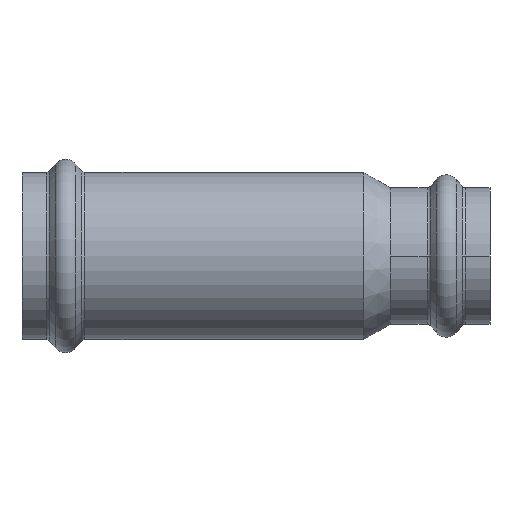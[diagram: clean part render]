
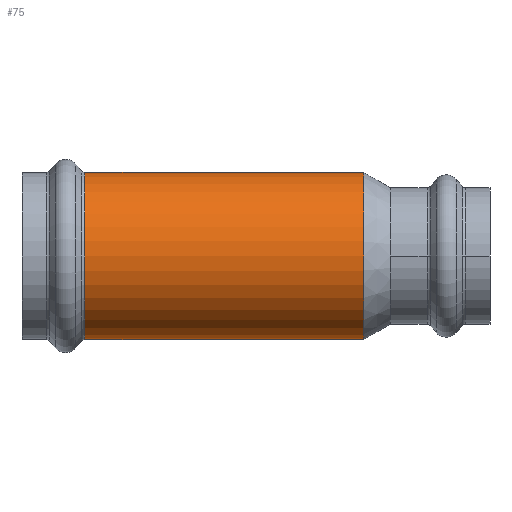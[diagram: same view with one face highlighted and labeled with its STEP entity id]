
A CAD part, front view. The second image highlights one B-rep face of the part: STEP entity #75.
In plain terms, the highlighted cylindrical face has radius 19.15 mm (diameter 38.3 mm), a partial arc.
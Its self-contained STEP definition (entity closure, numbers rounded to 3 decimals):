
#3 = EDGE_CURVE ( 'NONE', #4715, #4970, #335, .T. ) ;
#19 = VECTOR ( 'NONE', #4997, 1000. ) ;
#75 = ADVANCED_FACE ( 'NONE', ( #196 ), #2503, .T. ) ;
#196 = FACE_OUTER_BOUND ( 'NONE', #3443, .T. ) ;
#205 = EDGE_CURVE ( 'NONE', #3932, #4715, #1006, .T. ) ;
#335 = LINE ( 'NONE', #1287, #4698 ) ;
#1006 = CIRCLE ( 'NONE', #2891, 19.15 ) ;
#1097 = DIRECTION ( 'NONE',  ( 1., 0., 0. ) ) ;
#1280 = LINE ( 'NONE', #5052, #19 ) ;
#1287 = CARTESIAN_POINT ( 'NONE',  ( -58.611, 0., -19.15 ) ) ;
#1473 = CARTESIAN_POINT ( 'NONE',  ( -58.611, 0., 0. ) ) ;
#1490 = CIRCLE ( 'NONE', #2373, 19.15 ) ;
#1706 = AXIS2_PLACEMENT_3D ( 'NONE', #1473, #3042, #2542 ) ;
#2115 = DIRECTION ( 'NONE',  ( 1., 0., 0. ) ) ;
#2363 = CARTESIAN_POINT ( 'NONE',  ( 27.523, 0., 0. ) ) ;
#2373 = AXIS2_PLACEMENT_3D ( 'NONE', #3672, #1097, #4050 ) ;
#2503 = CYLINDRICAL_SURFACE ( 'NONE', #1706, 19.15 ) ;
#2542 = DIRECTION ( 'NONE',  ( 0., 0., 1. ) ) ;
#2680 = EDGE_CURVE ( 'NONE', #3932, #3372, #1280, .T. ) ;
#2891 = AXIS2_PLACEMENT_3D ( 'NONE', #2363, #2115, #4088 ) ;
#2934 = CARTESIAN_POINT ( 'NONE',  ( -36.332, 0., 19.15 ) ) ;
#3042 = DIRECTION ( 'NONE',  ( -1., 0., 0. ) ) ;
#3343 = DIRECTION ( 'NONE',  ( -1., 0., 0. ) ) ;
#3372 = VERTEX_POINT ( 'NONE', #2934 ) ;
#3425 = ORIENTED_EDGE ( 'NONE', *, *, #2680, .T. ) ;
#3443 = EDGE_LOOP ( 'NONE', ( #3840, #3793, #3425, #5156 ) ) ;
#3510 = CARTESIAN_POINT ( 'NONE',  ( 27.523, 0., -19.15 ) ) ;
#3672 = CARTESIAN_POINT ( 'NONE',  ( -36.332, 0., 0. ) ) ;
#3793 = ORIENTED_EDGE ( 'NONE', *, *, #205, .F. ) ;
#3840 = ORIENTED_EDGE ( 'NONE', *, *, #3, .F. ) ;
#3932 = VERTEX_POINT ( 'NONE', #5053 ) ;
#4050 = DIRECTION ( 'NONE',  ( 0., 0., -1. ) ) ;
#4088 = DIRECTION ( 'NONE',  ( 0., 0., 1. ) ) ;
#4116 = EDGE_CURVE ( 'NONE', #3372, #4970, #1490, .T. ) ;
#4447 = CARTESIAN_POINT ( 'NONE',  ( -36.332, 0., -19.15 ) ) ;
#4698 = VECTOR ( 'NONE', #3343, 1000. ) ;
#4715 = VERTEX_POINT ( 'NONE', #3510 ) ;
#4970 = VERTEX_POINT ( 'NONE', #4447 ) ;
#4997 = DIRECTION ( 'NONE',  ( -1., 0., 0. ) ) ;
#5052 = CARTESIAN_POINT ( 'NONE',  ( -58.611, 0., 19.15 ) ) ;
#5053 = CARTESIAN_POINT ( 'NONE',  ( 27.523, 0., 19.15 ) ) ;
#5156 = ORIENTED_EDGE ( 'NONE', *, *, #4116, .T. ) ;
